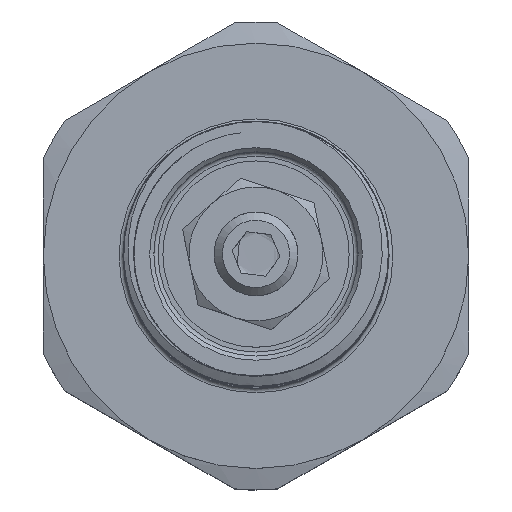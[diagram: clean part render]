
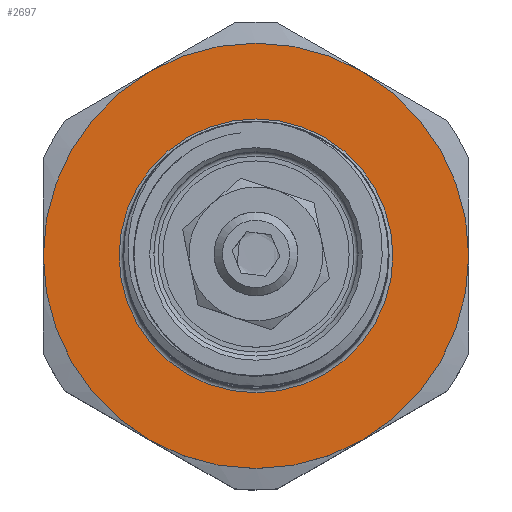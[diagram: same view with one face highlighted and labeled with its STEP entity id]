
A CAD part, top view. The second image highlights one B-rep face of the part: STEP entity #2697.
In plain terms, the highlighted planar face has unit normal (0, 0, 1).
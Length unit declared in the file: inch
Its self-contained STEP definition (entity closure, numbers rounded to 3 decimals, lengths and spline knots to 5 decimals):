
#142=FACE_BOUND('',#470,.T.);
#182=PLANE('',#2975);
#297=FACE_OUTER_BOUND('',#469,.T.);
#469=EDGE_LOOP('',(#2022,#2023));
#470=EDGE_LOOP('',(#2024));
#633=CIRCLE('',#2928,0.5);
#634=CIRCLE('',#2929,0.5);
#653=CIRCLE('',#2976,0.32184);
#1089=VERTEX_POINT('',#4981);
#1090=VERTEX_POINT('',#4983);
#1126=VERTEX_POINT('',#5494);
#1390=EDGE_CURVE('',#1090,#1089,#633,.T.);
#1391=EDGE_CURVE('',#1089,#1090,#634,.T.);
#1456=EDGE_CURVE('',#1126,#1126,#653,.T.);
#2022=ORIENTED_EDGE('',*,*,#1390,.T.);
#2023=ORIENTED_EDGE('',*,*,#1391,.T.);
#2024=ORIENTED_EDGE('',*,*,#1456,.F.);
#2697=ADVANCED_FACE('',(#297,#142),#182,.T.);
#2928=AXIS2_PLACEMENT_3D('',#4984,#3413,#3414);
#2929=AXIS2_PLACEMENT_3D('',#4985,#3415,#3416);
#2975=AXIS2_PLACEMENT_3D('',#5493,#3521,#3522);
#2976=AXIS2_PLACEMENT_3D('',#5495,#3523,#3524);
#3413=DIRECTION('center_axis',(0.,0.,1.));
#3414=DIRECTION('ref_axis',(-1.,0.,0.));
#3415=DIRECTION('center_axis',(0.,0.,1.));
#3416=DIRECTION('ref_axis',(-1.,0.,0.));
#3521=DIRECTION('center_axis',(0.,0.,1.));
#3522=DIRECTION('ref_axis',(1.,0.,0.));
#3523=DIRECTION('center_axis',(0.,0.,1.));
#3524=DIRECTION('ref_axis',(-1.,0.,0.));
#4981=CARTESIAN_POINT('',(0.5,0.,0.493));
#4983=CARTESIAN_POINT('',(0.25,-0.43301,0.493));
#4984=CARTESIAN_POINT('Origin',(0.,0.,0.493));
#4985=CARTESIAN_POINT('Origin',(0.,0.,0.493));
#5493=CARTESIAN_POINT('Origin',(0.,0.,
0.493));
#5494=CARTESIAN_POINT('',(0.32184,0.,0.493));
#5495=CARTESIAN_POINT('Origin',(0.,0.,0.493));
